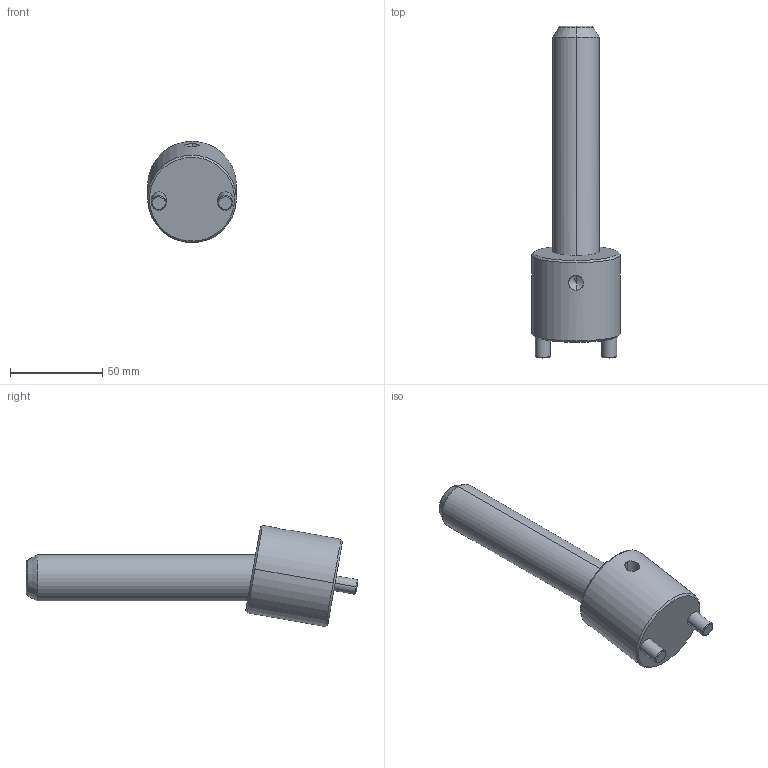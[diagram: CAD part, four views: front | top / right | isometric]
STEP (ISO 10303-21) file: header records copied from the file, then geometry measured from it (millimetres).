
FILE_DESCRIPTION(('CATIA V5 STEP Exchange'),'2;1');
FILE_NAME('C:\Users\Raffaele\Desktop\3D BOLEX\3D FILES CF BOLEX\19-INCLINED ASSEMBLY REF_CI\CI1025125.stp','2019-06-21T13:56:48+00:00',('none'),('none'),'CATIA Version 5 Release 20 GA (IN-10)','CATIA V5 STEP AP203','none');
FILE_SCHEMA(('CONFIG_CONTROL_DESIGN'));
Length unit declared in the file: millimetre
Products named in the file (1): CI1025125
Assembly tree (2 placements, depth 2):
  CI1025125
    #58
    #602
Bounding box: 48 x 179.61 x 54.74 mm (x, y, z)
Volume: 140430.1 mm3; surface area: 27420.2 mm2
Topology: 2 solids, 2 shells, 39 faces, 82 edges, 47 vertices
Faces by surface type: cone 14, cylinder 14, plane 7, torus 4
Entity records: 1530 total; most frequent: CARTESIAN_POINT 671, ORIENTED_EDGE 160, DIRECTION 145, EDGE_CURVE 80, AXIS2_PLACEMENT_3D 72, VERTEX_POINT 47, EDGE_LOOP 43, ADVANCED_FACE 39
